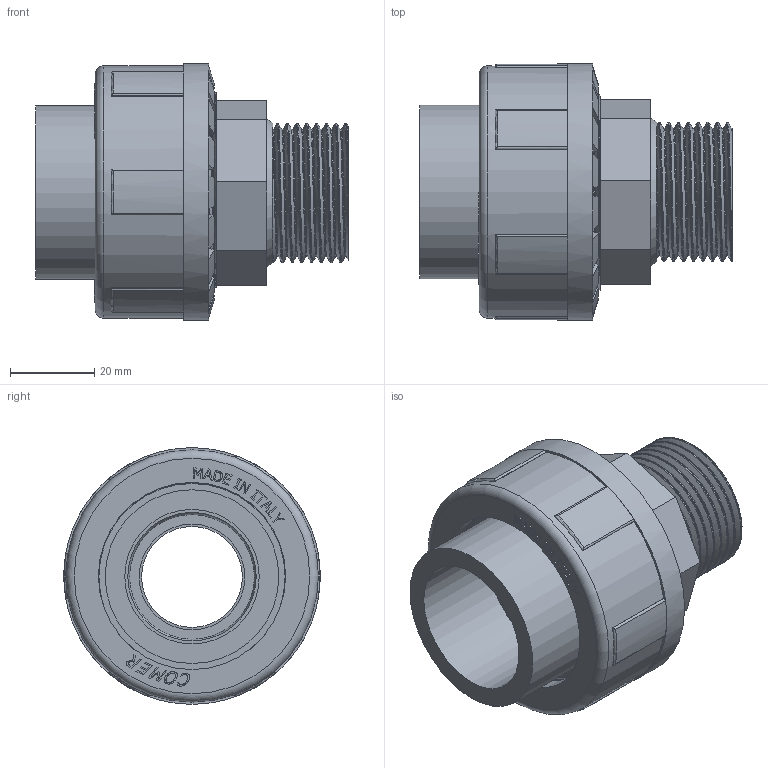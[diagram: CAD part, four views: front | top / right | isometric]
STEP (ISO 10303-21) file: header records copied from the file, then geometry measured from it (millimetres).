
FILE_DESCRIPTION(/* description */ (''),/* implementation_level */ '2;1');
FILE_NAME(/* name */ 'C:\ex desktop\US82\US82032D\US82032D.stp',/* time_stamp */ '2019-07-16T11:06:15+02:00',/* author */ ('e.sacchi'),/* organization */ (''),/* preprocessor_version */ 'ST-DEVELOPER v16.13',/* originating_system */ 'Autodesk Inventor 2018',/* authorisation */ '');
FILE_SCHEMA (('AUTOMOTIVE_DESIGN { 1 0 10303 214 3 1 1 }'));
Length unit declared in the file: millimetre
Products named in the file (5): US82032D; parte interna; guarnizione; ue; NU830320
Assembly tree (4 placements, depth 2):
  US82032D
    parte interna
    guarnizione
    ue
    NU830320
Bounding box: 74.43 x 61 x 61 mm (x, y, z)
Volume: 87103.9 mm3; surface area: 55039.5 mm2
Topology: 7 solids, 7 shells, 395 faces, 1001 edges, 667 vertices
Faces by surface type: plane 249, bspline 63, cylinder 38, cone 37, torus 8
Full cylindrical faces by diameter (mm): 24 x1, 25.112 x1, 30.13 x1, 30.236 x2, 30.54 x1, 32 x1, 39.3 x1, 41.3 x1, 44.3 x1, 44.5 x1, 44.786 x2, 47.8 x2, 60 x1, 61 x1
Entity records: 26077 total; most frequent: CARTESIAN_POINT 16425, ORIENTED_EDGE 1960, DIRECTION 1649, EDGE_CURVE 980, LINE 675, VECTOR 675, VERTEX_POINT 665, AXIS2_PLACEMENT_3D 487
